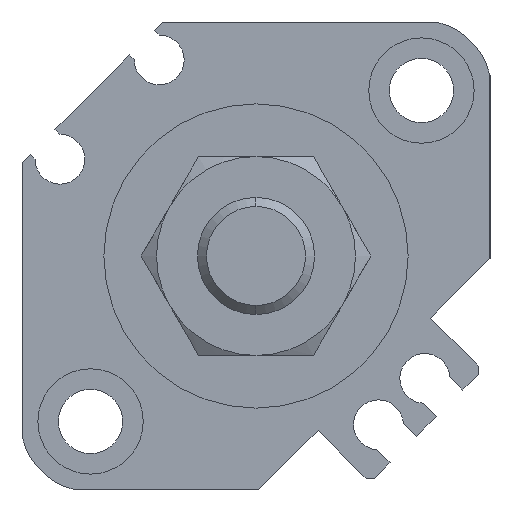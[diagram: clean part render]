
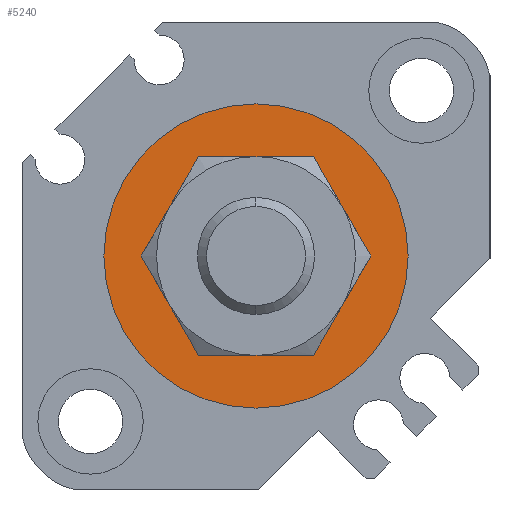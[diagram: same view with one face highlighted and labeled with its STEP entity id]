
A CAD part, left-side view. The second image highlights one B-rep face of the part: STEP entity #5240.
In plain terms, the highlighted planar face has unit normal (-1, 0, 0).
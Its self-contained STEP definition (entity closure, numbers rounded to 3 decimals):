
#67 = FACE_BOUND ( 'NONE', #453, .T. ) ;
#135 = ORIENTED_EDGE ( 'NONE', *, *, #2552, .F. ) ;
#412 = CIRCLE ( 'NONE', #1548, 13. ) ;
#453 = EDGE_LOOP ( 'NONE', ( #5205, #3438 ) ) ;
#988 = EDGE_LOOP ( 'NONE', ( #135, #5257 ) ) ;
#1007 = VERTEX_POINT ( 'NONE', #5303 ) ;
#1548 = AXIS2_PLACEMENT_3D ( 'NONE', #2948, #4625, #4155 ) ;
#1556 = CARTESIAN_POINT ( 'NONE',  ( 1.9, 0., 0. ) ) ;
#1598 = CIRCLE ( 'NONE', #2048, 13. ) ;
#1714 = VERTEX_POINT ( 'NONE', #4370 ) ;
#1798 = AXIS2_PLACEMENT_3D ( 'NONE', #5010, #4213, #4985 ) ;
#2048 = AXIS2_PLACEMENT_3D ( 'NONE', #1556, #4438, #2705 ) ;
#2146 = DIRECTION ( 'NONE',  ( 0., 0., -1. ) ) ;
#2202 = PLANE ( 'NONE',  #5337 ) ;
#2225 = CARTESIAN_POINT ( 'NONE',  ( 1.9, 0., -13. ) ) ;
#2232 = FACE_OUTER_BOUND ( 'NONE', #988, .T. ) ;
#2491 = AXIS2_PLACEMENT_3D ( 'NONE', #5405, #3802, #2146 ) ;
#2552 = EDGE_CURVE ( 'NONE', #5281, #3848, #412, .T. ) ;
#2581 = DIRECTION ( 'NONE',  ( 1., 0., 0. ) ) ;
#2705 = DIRECTION ( 'NONE',  ( 0., 0., -1. ) ) ;
#2948 = CARTESIAN_POINT ( 'NONE',  ( 1.9, 0., 0. ) ) ;
#3171 = EDGE_CURVE ( 'NONE', #3848, #5281, #1598, .T. ) ;
#3438 = ORIENTED_EDGE ( 'NONE', *, *, #4411, .T. ) ;
#3802 = DIRECTION ( 'NONE',  ( 1., 0., 0. ) ) ;
#3848 = VERTEX_POINT ( 'NONE', #2225 ) ;
#4152 = CIRCLE ( 'NONE', #2491, 7.5 ) ;
#4155 = DIRECTION ( 'NONE',  ( 0., 0., -1. ) ) ;
#4213 = DIRECTION ( 'NONE',  ( 1., 0., 0. ) ) ;
#4254 = DIRECTION ( 'NONE',  ( 0., 1., 0. ) ) ;
#4370 = CARTESIAN_POINT ( 'NONE',  ( 1.9, 0., -7.5 ) ) ;
#4411 = EDGE_CURVE ( 'NONE', #1714, #1007, #4152, .T. ) ;
#4438 = DIRECTION ( 'NONE',  ( 1., 0., 0. ) ) ;
#4625 = DIRECTION ( 'NONE',  ( 1., 0., 0. ) ) ;
#4812 = EDGE_CURVE ( 'NONE', #1007, #1714, #4860, .T. ) ;
#4860 = CIRCLE ( 'NONE', #1798, 7.5 ) ;
#4985 = DIRECTION ( 'NONE',  ( 0., 0., -1. ) ) ;
#5010 = CARTESIAN_POINT ( 'NONE',  ( 1.9, 0., 0. ) ) ;
#5069 = CARTESIAN_POINT ( 'NONE',  ( 1.9, 0., 0. ) ) ;
#5157 = CARTESIAN_POINT ( 'NONE',  ( 1.9, 0., 13. ) ) ;
#5205 = ORIENTED_EDGE ( 'NONE', *, *, #4812, .T. ) ;
#5240 = ADVANCED_FACE ( 'NONE', ( #2232, #67 ), #2202, .F. ) ;
#5257 = ORIENTED_EDGE ( 'NONE', *, *, #3171, .F. ) ;
#5281 = VERTEX_POINT ( 'NONE', #5157 ) ;
#5303 = CARTESIAN_POINT ( 'NONE',  ( 1.9, 0., 7.5 ) ) ;
#5337 = AXIS2_PLACEMENT_3D ( 'NONE', #5069, #2581, #4254 ) ;
#5405 = CARTESIAN_POINT ( 'NONE',  ( 1.9, 0., 0. ) ) ;
